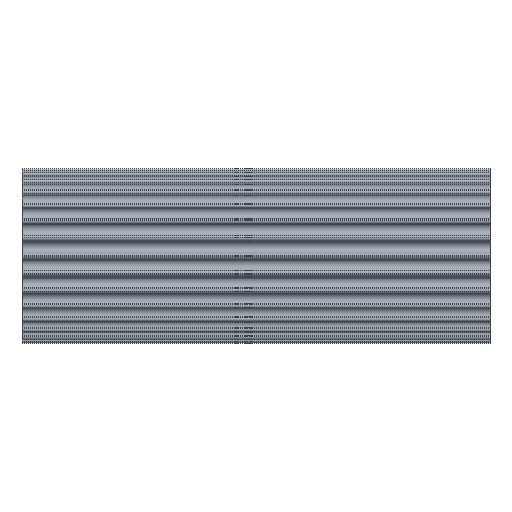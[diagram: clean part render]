
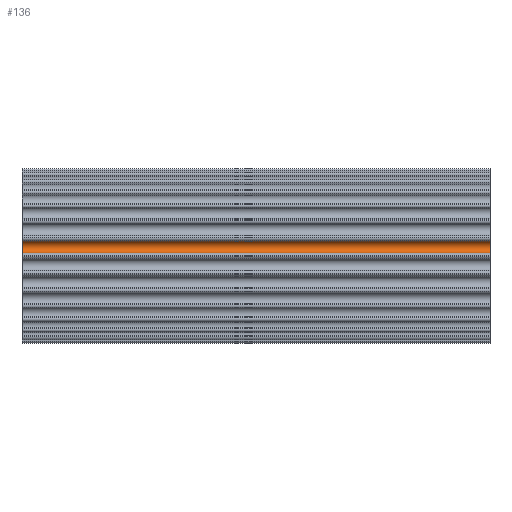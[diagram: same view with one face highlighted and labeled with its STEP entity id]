
A CAD part, top view. The second image highlights one B-rep face of the part: STEP entity #136.
In plain terms, the highlighted cylindrical face has radius 2.629 mm (diameter 5.258 mm), a partial arc.
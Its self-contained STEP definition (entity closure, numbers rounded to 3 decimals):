
#136 = ADVANCED_FACE( '', ( #380 ), #381, .F. );
#380 = FACE_OUTER_BOUND( '', #744, .T. );
#381 = CYLINDRICAL_SURFACE( '', #745, 2.629 );
#744 = EDGE_LOOP( '', ( #1765, #1766, #1767, #1768 ) );
#745 = AXIS2_PLACEMENT_3D( '', #1769, #1770, #1771 );
#1765 = ORIENTED_EDGE( '', *, *, #2843, .T. );
#1766 = ORIENTED_EDGE( '', *, *, #3037, .F. );
#1767 = ORIENTED_EDGE( '', *, *, #2758, .F. );
#1768 = ORIENTED_EDGE( '', *, *, #3036, .T. );
#1769 = CARTESIAN_POINT( '', ( 0., 3.824, 36.385 ) );
#1770 = DIRECTION( '', ( -1., 0., 0. ) );
#1771 = DIRECTION( '', ( 0., 0.995, -0.105 ) );
#2758 = EDGE_CURVE( '', #3440, #3442, #3443, .T. );
#2843 = EDGE_CURVE( '', #3606, #3604, #3607, .T. );
#3036 = EDGE_CURVE( '', #3440, #3606, #3936, .T. );
#3037 = EDGE_CURVE( '', #3442, #3604, #3937, .T. );
#3440 = VERTEX_POINT( '', #4391 );
#3442 = VERTEX_POINT( '', #4394 );
#3443 = CIRCLE( '', #4395, 2.629 );
#3604 = VERTEX_POINT( '', #4587 );
#3606 = VERTEX_POINT( '', #4590 );
#3607 = CIRCLE( '', #4591, 2.629 );
#3936 = LINE( '', #5020, #5021 );
#3937 = LINE( '', #5022, #5023 );
#4391 = CARTESIAN_POINT( '', ( 0., 1.217, 36.049 ) );
#4394 = CARTESIAN_POINT( '', ( 0., 6.305, 35.514 ) );
#4395 = AXIS2_PLACEMENT_3D( '', #5586, #5587, #5588 );
#4587 = CARTESIAN_POINT( '', ( 200., 6.305, 35.514 ) );
#4590 = CARTESIAN_POINT( '', ( 200., 1.217, 36.049 ) );
#4591 = AXIS2_PLACEMENT_3D( '', #5777, #5778, #5779 );
#5020 = CARTESIAN_POINT( '', ( 0., 1.217, 36.049 ) );
#5021 = VECTOR( '', #6156, 1000. );
#5022 = CARTESIAN_POINT( '', ( 0., 6.305, 35.514 ) );
#5023 = VECTOR( '', #6157, 1000. );
#5586 = CARTESIAN_POINT( '', ( 0., 3.824, 36.385 ) );
#5587 = DIRECTION( '', ( 1., 0., 0. ) );
#5588 = DIRECTION( '', ( 0., 0.995, -0.105 ) );
#5777 = CARTESIAN_POINT( '', ( 200., 3.824, 36.385 ) );
#5778 = DIRECTION( '', ( 1., 0., 0. ) );
#5779 = DIRECTION( '', ( 0., 0.995, -0.105 ) );
#6156 = DIRECTION( '', ( 1., 0., 0. ) );
#6157 = DIRECTION( '', ( 1., 0., 0. ) );
